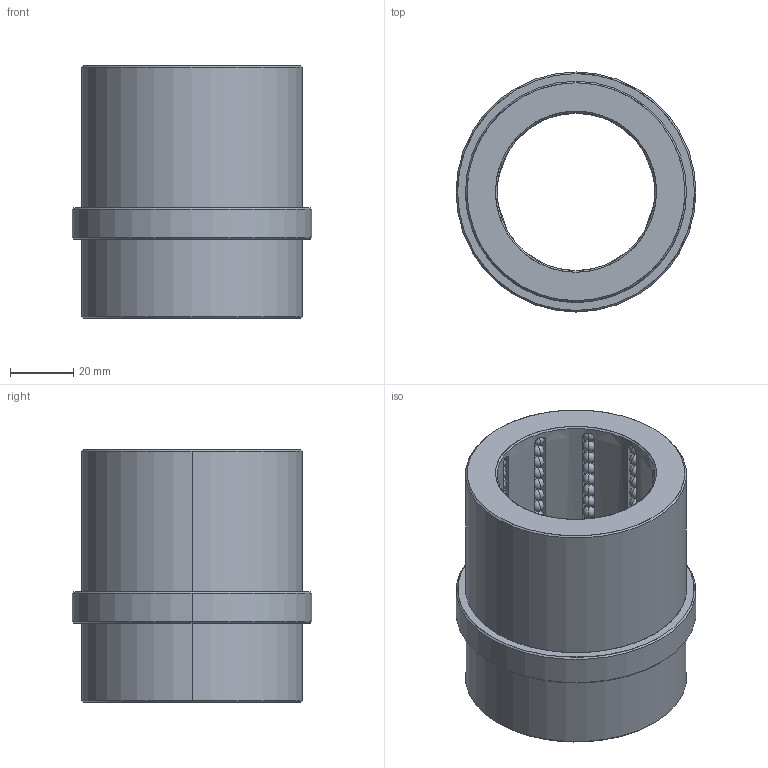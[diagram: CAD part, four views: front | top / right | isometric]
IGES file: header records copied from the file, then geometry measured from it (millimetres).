
Start section: START RECORD GO HERE.
Global section: file name: B8025055.igs; native system: DASSAULT SYSTEMES CATIA V5 R20 - www.3ds.com; preprocessor: CATIA Version 5 Release 20 ; author: Utente; organization: NB04-ASUS; date: 20200419.145724; units: millimetre
Bounding box: 76 x 76 x 80 mm (x, y, z)
Surface area: 50344.8 mm2 (no closed solid volume)
Topology: 0 solids, 0 shells, 806 faces, 3300 edges, 1860 vertices
Faces by surface type: revolution 772, plane 34
